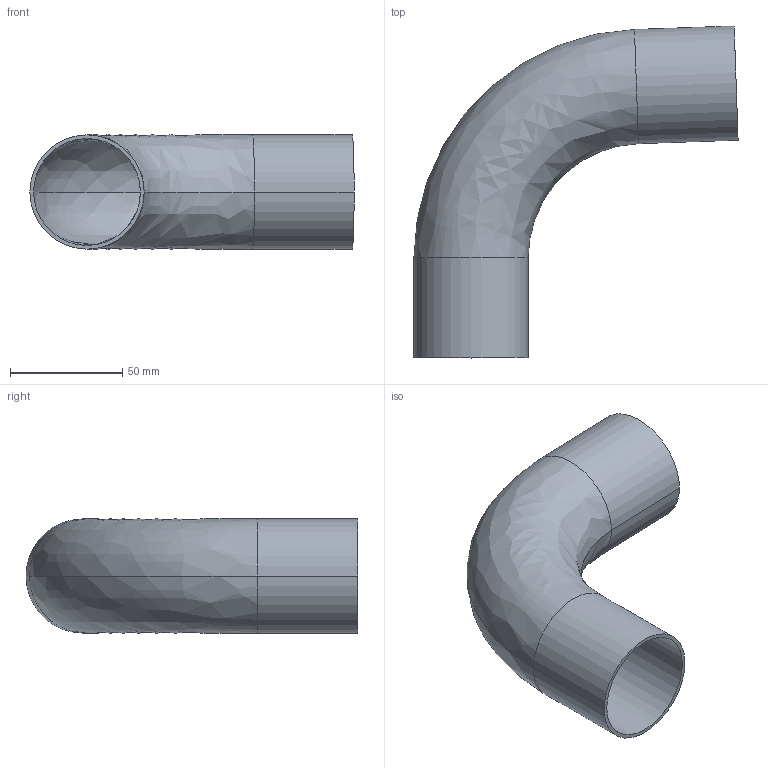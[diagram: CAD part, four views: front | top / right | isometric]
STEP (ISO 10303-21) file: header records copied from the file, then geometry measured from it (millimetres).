
FILE_DESCRIPTION (( 'STEP AP214' ), '1' );
FILE_NAME ('TE2S886L2.0-...STEP', '2016-05-22T08:44:09', ( 'eran' ), ( '' ), 'SwSTEP 2.0', 'SolidWorks 2016', '' );
FILE_SCHEMA (( 'AUTOMOTIVE_DESIGN' ));
Length unit declared in the file: millimetre
Products named in the file (1): TE2S886L2.0-..
Bounding box: 144.15 x 147.55 x 50.8 mm (x, y, z)
Volume: 52445.5 mm3; surface area: 64079.8 mm2
Topology: 1 solids, 1 shells, 14 faces, 28 edges, 16 vertices
Faces by surface type: cylinder 8, bspline 4, plane 2
Entity records: 450 total; most frequent: CARTESIAN_POINT 119, DIRECTION 70, ORIENTED_EDGE 56, AXIS2_PLACEMENT_3D 31, EDGE_CURVE 28, CIRCLE 20, EDGE_LOOP 16, VERTEX_POINT 16
